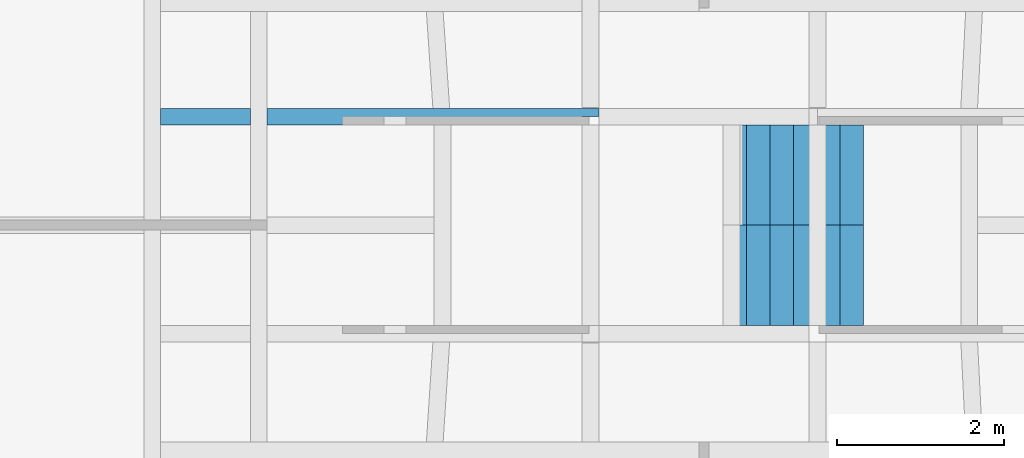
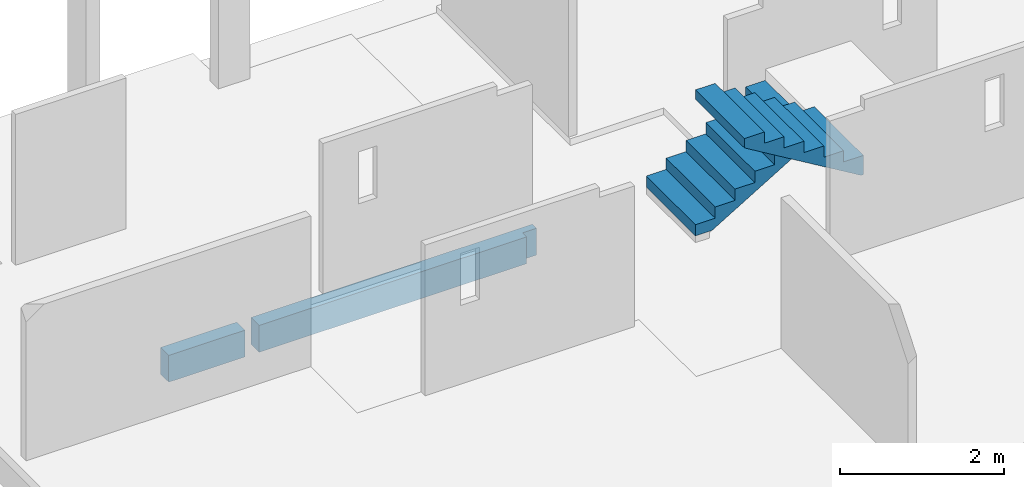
# One storey, part 7 of 7: 2 stair flights, 1 beam, 1 element without a shape of its own.
"""IFC4 building model written with IfcOpenShell, lengths in metres."""

import ifcopenshell
import ifcopenshell.guid

model = None  # the IFC model being written
_history = None  # IfcOwnerHistory: only IFC2X3 demands one
_inside = {}  # id of a spatial element -> (the spatial element, [elements in it])
_under = {}  # id of a project, library or spatial element -> (it, [spatial elements below it])
_declared = {}  # id of a project -> (the project, [libraries it declares])
_typed = {}  # id of a type object -> (the type object, [elements of that type])
_made_of = {}  # id of a material, layer set ... -> (it, [elements and type objects made of it])


def new_model(schema):
    """Start an empty IFC model of exactly this schema.

    Asked for "IFC4X3", IfcOpenShell would pick the latest addendum, in which some entities
    have other attributes; the version numbers below select the first issue.
    IFC2X3 requires an IfcOwnerHistory on every rooted entity: one is made here for all.
    """
    global model, _history
    if schema == "IFC4X3":
        model = ifcopenshell.file(schema_version=(4, 3, 0, 0))
    else:
        model = ifcopenshell.file(schema=schema)
    _inside.clear()
    _under.clear()
    _declared.clear()
    _typed.clear()
    _made_of.clear()
    _history = None
    if model.schema == "IFC2X3":
        org = make("IfcOrganization", Name="unknown")
        user = make(
            "IfcPersonAndOrganization",
            ThePerson=make("IfcPerson", FamilyName="unknown"),
            TheOrganization=org,
        )
        app = make(
            "IfcApplication",
            ApplicationDeveloper=org,
            Version="unknown",
            ApplicationFullName="unknown",
            ApplicationIdentifier="unknown",
        )
        _history = make(
            "IfcOwnerHistory",
            OwningUser=user,
            OwningApplication=app,
            ChangeAction="ADDED",
            CreationDate=0,
        )
    return model


def make(cls, **values):
    """One entity of the class cls with the attributes given. An attribute that is None is left unset."""
    return model.create_entity(
        cls, **{name: value for name, value in values.items() if value is not None}
    )


def entity(cls, *values):
    """Any entity or typed value of the class cls, its attributes in the order of the schema. None: left unset."""
    e = model.create_entity(cls)
    for i, value in enumerate(values):
        if value is not None:
            e[i] = value
    return e


def rooted(cls, **values):
    """An entity with a GlobalId (a new one), such as an element, a storey or a relation."""
    return make(cls, GlobalId=ifcopenshell.guid.new(), OwnerHistory=_history, **values)


def si_unit(unit_type, name, prefix=None):
    """IfcSIUnit, for example si_unit("LENGTHUNIT", "METRE", prefix="MILLI")."""
    return make("IfcSIUnit", UnitType=unit_type, Prefix=prefix, Name=name)


def converted_unit(unit_type, name, factor, base, dimensions=None, offset=None):
    """IfcConversionBasedUnit, such as the inch: factor (a typed value) times the base unit."""
    return make(
        "IfcConversionBasedUnit"
        if offset is None
        else "IfcConversionBasedUnitWithOffset",
        ConversionOffset=offset,
        Dimensions=None
        if dimensions is None
        else entity("IfcDimensionalExponents", *dimensions),
        UnitType=unit_type,
        Name=name,
        ConversionFactor=make(
            "IfcMeasureWithUnit", ValueComponent=factor, UnitComponent=base
        ),
    )


def derived_unit(unit_type, elements):
    """IfcDerivedUnit: a product of units, each with its exponent."""
    return make(
        "IfcDerivedUnit",
        Elements=[
            make("IfcDerivedUnitElement", Unit=unit, Exponent=power)
            for unit, power in elements
        ],
        UnitType=unit_type,
    )


def assignment(units):
    """IfcUnitAssignment: the units of a project."""
    return None if units is None else make("IfcUnitAssignment", Units=units)


def point(xyz):
    """IfcCartesianPoint."""
    return None if xyz is None else make("IfcCartesianPoint", Coordinates=xyz)


def direction(xyz):
    """IfcDirection."""
    return None if xyz is None else make("IfcDirection", DirectionRatios=xyz)


def frame(location, z_axis=None, x_axis=None):
    """IfcAxis2Placement3D, a coordinate frame: its origin and axes. An axis left out is left unset."""
    return make(
        "IfcAxis2Placement3D",
        Location=point(location),
        Axis=direction(z_axis),
        RefDirection=direction(x_axis),
    )


def origin():
    """The frame at (0, 0, 0) with its axes left unset."""
    return frame((0.0, 0.0, 0.0))


def place(relative_to, where):
    """IfcLocalPlacement: puts the frame where relative to a parent placement (None: the world)."""
    return make(
        "IfcLocalPlacement", PlacementRelTo=relative_to, RelativePlacement=where
    )


def context(
    kind, dimensions, precision=None, world=None, true_north=None, identifier=None
):
    """IfcGeometricRepresentationContext, for example the 3D "Model" context."""
    return make(
        "IfcGeometricRepresentationContext",
        ContextIdentifier=identifier,
        ContextType=kind,
        CoordinateSpaceDimension=dimensions,
        Precision=precision,
        WorldCoordinateSystem=world,
        TrueNorth=true_north,
    )


def subcontext(parent, identifier, kind, view, scale=None):
    """IfcGeometricRepresentationSubContext, for example "Body" below "Model"."""
    return make(
        "IfcGeometricRepresentationSubContext",
        ContextIdentifier=identifier,
        ContextType=kind,
        ParentContext=parent,
        TargetScale=scale,
        TargetView=view,
    )


def project(units=None, contexts=None):
    """IfcProject with its units and contexts."""
    return rooted(
        "IfcProject",
        Name="project",
        RepresentationContexts=contexts,
        UnitsInContext=assignment(units),
    )


def spatial(cls, under=None, at=None, **own):
    """A site, building, storey or space (cls), placed at a placement, below another one or the project."""
    s = rooted(cls, ObjectPlacement=at, **own)
    if under is not None:
        _under.setdefault(under.id(), (under, []))[1].append(s)
    return s


def point_list(points):
    """IfcCartesianPointList2D or 3D."""
    cls = (
        "IfcCartesianPointList2D" if len(points[0]) == 2 else "IfcCartesianPointList3D"
    )
    return make(cls, CoordList=points)


def polygons(points, faces, closed=None, point_numbers=None):
    """IfcPolygonalFaceSet: a face is its outer loop, then its inner loops; points numbered from 1."""
    made = []
    for loops in faces:
        if len(loops) == 1:
            made.append(make("IfcIndexedPolygonalFace", CoordIndex=loops[0]))
        else:
            made.append(
                make(
                    "IfcIndexedPolygonalFaceWithVoids",
                    CoordIndex=loops[0],
                    InnerCoordIndices=loops[1:],
                )
            )
    return make(
        "IfcPolygonalFaceSet",
        Coordinates=point_list(points),
        Closed=closed,
        Faces=made,
        PnIndex=point_numbers,
    )


def shape(context_of_items, identifier, shape_type, items):
    """IfcShapeRepresentation: the items that make up one representation, for example the "Body"."""
    return make(
        "IfcShapeRepresentation",
        ContextOfItems=context_of_items,
        RepresentationIdentifier=identifier,
        RepresentationType=shape_type,
        Items=items,
    )


def source(mapping_origin, context_of_items, identifier, shape_type, items):
    """IfcRepresentationMap: a shape defined once, which mapped items show again and again."""
    return make(
        "IfcRepresentationMap",
        MappingOrigin=mapping_origin,
        MappedRepresentation=shape(context_of_items, identifier, shape_type, items),
    )


def transform(
    local_origin,
    x_axis=None,
    y_axis=None,
    z_axis=None,
    scale=None,
    scale2=None,
    scale3=None,
    uniform=True,
):
    """IfcCartesianTransformationOperator3D, or its non-uniform kind. x_axis, y_axis, z_axis: its Axis1, 2, 3."""
    if uniform:
        return make(
            "IfcCartesianTransformationOperator3D",
            Axis1=direction(x_axis),
            Axis2=direction(y_axis),
            LocalOrigin=point(local_origin),
            Scale=scale,
            Axis3=direction(z_axis),
        )
    return make(
        "IfcCartesianTransformationOperator3DnonUniform",
        Axis1=direction(x_axis),
        Axis2=direction(y_axis),
        LocalOrigin=point(local_origin),
        Scale=scale,
        Axis3=direction(z_axis),
        Scale2=scale2,
        Scale3=scale3,
    )


def mapped(mapping_source, mapping_target):
    """IfcMappedItem: shows the shape of a source again, moved by a transform."""
    return make(
        "IfcMappedItem", MappingSource=mapping_source, MappingTarget=mapping_target
    )


def material(Name=None, Category=None):
    """IfcMaterial."""
    return make("IfcMaterial", Name=Name, Category=Category)


def made_of(thing, what):
    """Note that an element or type object is made of a material, layer set ...; save() writes the relation."""
    if what is not None:
        _made_of.setdefault(what.id(), (what, []))[1].append(thing)
    return thing


def type_object(cls, material=None, **own):
    """A type object (cls), such as IfcWallType, which elements share."""
    return made_of(rooted(cls, **own), material)


def type_shapes(of_type, sources):
    """Give a type object the sources (RepresentationMaps) that its elements show as mapped items."""
    of_type.RepresentationMaps = sources


def element(
    cls,
    number,
    at=None,
    inside=None,
    cuts=None,
    type_object=None,
    material=None,
    context=None,
    identifier="Body",
    shape_type=None,
    held_by="IfcProductDefinitionShape",
    body=None,
    shapes=None,
    **own,
):
    """One element of the class cls, such as IfcWall. Its Tag is "e" and its number.

    at: its placement. inside: the storey or other place that contains it. cuts: it is an
    opening in that element (IfcRelVoidsElement). A single representation is given by context,
    identifier, shape_type and body (its items); several are given by shapes. held_by: the class
    of the entity that holds the representations. save() writes the other relations.
    """
    e = rooted(cls, Tag="e%d" % number, ObjectPlacement=at, **own)
    if body is not None:
        shapes = [shape(context, identifier, shape_type, body)]
    if shapes is not None:
        e.Representation = make(held_by, Representations=shapes)
    if inside is not None:
        _inside.setdefault(inside.id(), (inside, []))[1].append(e)
    if cuts is not None:
        rooted(
            "IfcRelVoidsElement", RelatingBuildingElement=cuts, RelatedOpeningElement=e
        )
    if type_object is not None:
        _typed.setdefault(type_object.id(), (type_object, []))[1].append(e)
    return made_of(e, material)


def aggregate(whole, parts):
    """IfcRelAggregates: a whole, such as a stair, and the parts it consists of."""
    return rooted("IfcRelAggregates", RelatingObject=whole, RelatedObjects=parts)


def save(model, path):
    """Write the relations noted so far, then the file.

    IfcRelAggregates (storeys below a building ...), IfcRelContainedInSpatialStructure (elements
    in a storey), IfcRelDefinesByType, IfcRelAssociatesMaterial and IfcRelDeclares: one each for
    every whole, place, type object, material and project.
    """
    for whole, parts in _under.values():
        aggregate(whole, parts)
    for where, things in _inside.values():
        rooted(
            "IfcRelContainedInSpatialStructure",
            RelatedElements=things,
            RelatingStructure=where,
        )
    for kind, things in _typed.values():
        rooted("IfcRelDefinesByType", RelatedObjects=things, RelatingType=kind)
    for what, things in _made_of.values():
        rooted("IfcRelAssociatesMaterial", RelatedObjects=things, RelatingMaterial=what)
    for by, libraries in _declared.values():
        rooted("IfcRelDeclares", RelatingContext=by, RelatedDefinitions=libraries)
    model.write(path)


model = new_model("IFC4")

# Units and contexts
model_context = context("Model", 3, precision=1e-05, world=origin(), true_north=direction((6.123031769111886e-17, 1.0)))
body_context = subcontext(model_context, "Body", "Model", "MODEL_VIEW")
ifc_project = project(units=[si_unit("LENGTHUNIT", "METRE"), si_unit("AREAUNIT", "SQUARE_METRE"), si_unit("VOLUMEUNIT", "CUBIC_METRE"), converted_unit("PLANEANGLEUNIT", "DEGREE", entity("IfcRatioMeasure", 0.017453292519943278), si_unit("PLANEANGLEUNIT", "RADIAN"), dimensions=[0, 0, 0, 0, 0, 0, 0]), si_unit("MASSUNIT", "GRAM", prefix="KILO"), derived_unit("MASSDENSITYUNIT", [(si_unit("MASSUNIT", "GRAM", prefix="KILO"), 1), (si_unit("LENGTHUNIT", "METRE"), -3)]), derived_unit("IONCONCENTRATIONUNIT", [(si_unit("MASSUNIT", "GRAM", prefix="KILO"), 1), (si_unit("LENGTHUNIT", "METRE"), -3)]), derived_unit("MOMENTOFINERTIAUNIT", [(si_unit("LENGTHUNIT", "METRE"), 4)]), si_unit("TIMEUNIT", "SECOND"), si_unit("FREQUENCYUNIT", "HERTZ"), si_unit("THERMODYNAMICTEMPERATUREUNIT", "DEGREE_CELSIUS"), derived_unit("THERMALTRANSMITTANCEUNIT", [(si_unit("MASSUNIT", "GRAM", prefix="KILO"), 1), (si_unit("THERMODYNAMICTEMPERATUREUNIT", "KELVIN"), -1), (si_unit("TIMEUNIT", "SECOND"), -3)]), derived_unit("THERMALCONDUCTANCEUNIT", [(si_unit("MASSUNIT", "GRAM", prefix="KILO"), 1), (si_unit("THERMODYNAMICTEMPERATUREUNIT", "KELVIN"), -1), (si_unit("TIMEUNIT", "SECOND"), -3), (si_unit("LENGTHUNIT", "METRE"), 1)]), derived_unit("VOLUMETRICFLOWRATEUNIT", [(si_unit("LENGTHUNIT", "METRE"), 3), (si_unit("TIMEUNIT", "SECOND"), -1)]), derived_unit("MASSFLOWRATEUNIT", [(si_unit("MASSUNIT", "GRAM", prefix="KILO"), 1), (si_unit("TIMEUNIT", "SECOND"), -1)]), derived_unit("ROTATIONALFREQUENCYUNIT", [(si_unit("TIMEUNIT", "SECOND"), -1)]), si_unit("ELECTRICCURRENTUNIT", "AMPERE"), si_unit("ELECTRICVOLTAGEUNIT", "VOLT"), si_unit("POWERUNIT", "WATT"), si_unit("FORCEUNIT", "NEWTON", prefix="KILO"), si_unit("ILLUMINANCEUNIT", "LUX"), si_unit("LUMINOUSFLUXUNIT", "LUMEN"), si_unit("LUMINOUSINTENSITYUNIT", "CANDELA"), derived_unit("USERDEFINED", [(si_unit("MASSUNIT", "GRAM", prefix="KILO"), -1), (si_unit("LENGTHUNIT", "METRE"), -2), (si_unit("TIMEUNIT", "SECOND"), 3), (si_unit("LUMINOUSFLUXUNIT", "LUMEN"), 1)]), derived_unit("USERDEFINED", [(si_unit("MASSUNIT", "GRAM", prefix="KILO"), 1), (si_unit("TIMEUNIT", "SECOND"), -3), (si_unit("LENGTHUNIT", "METRE"), 3), (si_unit("ELECTRICCURRENTUNIT", "AMPERE"), -2)]), derived_unit("SOUNDPOWERUNIT", [(si_unit("MASSUNIT", "GRAM", prefix="KILO"), 1), (si_unit("TIMEUNIT", "SECOND"), -3), (si_unit("LENGTHUNIT", "METRE"), 2)]), derived_unit("SOUNDPRESSUREUNIT", [(si_unit("MASSUNIT", "GRAM", prefix="KILO"), 1), (si_unit("LENGTHUNIT", "METRE"), -1), (si_unit("TIMEUNIT", "SECOND"), -2)]), derived_unit("LINEARVELOCITYUNIT", [(si_unit("LENGTHUNIT", "METRE"), 1), (si_unit("TIMEUNIT", "SECOND"), -1)]), si_unit("PRESSUREUNIT", "PASCAL"), derived_unit("USERDEFINED", [(si_unit("MASSUNIT", "GRAM", prefix="KILO"), 1), (si_unit("LENGTHUNIT", "METRE"), -2), (si_unit("TIMEUNIT", "SECOND"), -2)]), derived_unit("LINEARFORCEUNIT", [(si_unit("MASSUNIT", "GRAM", prefix="KILO"), 1), (si_unit("TIMEUNIT", "SECOND"), -2)]), derived_unit("PLANARFORCEUNIT", [(si_unit("MASSUNIT", "GRAM", prefix="KILO"), 1), (si_unit("LENGTHUNIT", "METRE"), -1), (si_unit("TIMEUNIT", "SECOND"), -2)]), derived_unit("SPECIFICHEATCAPACITYUNIT", [(si_unit("THERMODYNAMICTEMPERATUREUNIT", "KELVIN"), -1), (si_unit("LENGTHUNIT", "METRE"), 2), (si_unit("TIMEUNIT", "SECOND"), -2)]), derived_unit("HEATINGVALUEUNIT", [(si_unit("LENGTHUNIT", "METRE"), 2), (si_unit("TIMEUNIT", "SECOND"), -2)]), derived_unit("VAPORPERMEABILITYUNIT", [(si_unit("LENGTHUNIT", "METRE"), -1), (si_unit("TIMEUNIT", "SECOND"), 1)]), derived_unit("DYNAMICVISCOSITYUNIT", [(si_unit("MASSUNIT", "GRAM", prefix="KILO"), 1), (si_unit("TIMEUNIT", "SECOND"), -1), (si_unit("LENGTHUNIT", "METRE"), -1)]), derived_unit("THERMALEXPANSIONCOEFFICIENTUNIT", [(si_unit("THERMODYNAMICTEMPERATUREUNIT", "KELVIN"), -1)]), derived_unit("MODULUSOFELASTICITYUNIT", [(si_unit("MASSUNIT", "GRAM", prefix="KILO"), 1), (si_unit("LENGTHUNIT", "METRE"), -1), (si_unit("TIMEUNIT", "SECOND"), -2)]), derived_unit("ISOTHERMALMOISTURECAPACITYUNIT", [(si_unit("LENGTHUNIT", "METRE"), 3), (si_unit("MASSUNIT", "GRAM", prefix="KILO"), -1)]), derived_unit("MOISTUREDIFFUSIVITYUNIT", [(si_unit("TIMEUNIT", "SECOND"), -1), (si_unit("LENGTHUNIT", "METRE"), 2)])], contexts=[model_context])

# Site, building, storey
site_placement = place(None, origin())
site = spatial("IfcSite", under=ifc_project, at=site_placement, Name="Default", CompositionType="ELEMENT")
building_placement = place(site_placement, origin())
building = spatial("IfcBuilding", under=site, at=building_placement, Name="Las nubes", CompositionType="ELEMENT")
storey_placement = place(building_placement, origin())
storey = spatial("IfcBuildingStorey", under=building, at=storey_placement, Name="CIMENTACIÓN", CompositionType="ELEMENT", Elevation=-3.522347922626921e-13)

# Beam
ifc_material = material(Name="Concrete, Cast In Situ", Category="Materials")
beam_type = type_object("IfcBeamType", Name="M_Concrete-Rectangular Beam:(0.20x0.55)", PredefinedType="BEAM", material=ifc_material)
shared_shape = source(origin(), body_context, "Body", "Tessellation", [
    polygons([(1.2774989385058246, 0.20000000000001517, 0.0), (1.2774989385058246, 0.20000000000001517, 0.39999999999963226), (3.263561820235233, 0.20000000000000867, 0.39999999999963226), (3.4640157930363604, 0.20000000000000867, 0.39999999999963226), (5.252498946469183, 0.20000000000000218, 0.39999999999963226), (5.252498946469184, 0.20000000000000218, 0.30000000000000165), (5.252498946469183, 0.20000000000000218, 0.0), (3.4640157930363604, 0.20000000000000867, 0.0), (3.263561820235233, 0.20000000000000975, 0.0), (1.2774989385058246, 1.191153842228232e-14, 0.0), (5.252498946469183, 0.09999999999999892, 0.0), (5.052498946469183, 0.09999999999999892, 0.0), (5.052498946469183, 0.0, 0.0), (3.4774989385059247, 5.4143356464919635e-15, 6.767919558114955e-17), (3.2774989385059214, 5.4143356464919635e-15, 0.0), (1.2774989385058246, 1.191153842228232e-14, 0.39999999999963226), (5.052498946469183, 0.0, 0.39999999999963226), (5.052498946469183, 0.09999999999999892, 0.39999999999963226), (5.252498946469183, 0.09999999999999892, 0.39999999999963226)], [[[1, 2, 3, 4, 5, 6, 7, 8, 9]], [[10, 1, 9, 8, 7, 11, 12, 13, 14, 15]], [[16, 10, 15, 14, 13, 17]], [[1, 10, 16, 2]], [[5, 4, 3, 2, 16, 17, 18, 19]], [[7, 6, 5, 19, 11]], [[12, 18, 17, 13]], [[18, 12, 11, 19]]], closed=True),
    polygons([(1.0828671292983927e-15, 0.20000000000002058, 0.0), (0.0, 1.624300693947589e-14, 0.0), (0.0, 1.7325874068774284e-14, 0.39999999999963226), (5.414335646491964e-16, 0.2000000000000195, 0.39999999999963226), (1.0774989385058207, 1.2994405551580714e-14, 0.0), (1.0774989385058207, 0.20000000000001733, 0.0), (1.0774989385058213, 0.20000000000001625, 0.39999999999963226), (1.0774989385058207, 1.2994405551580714e-14, 0.39999999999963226)], [[[1, 2, 3, 4]], [[5, 6, 7, 8]], [[1, 4, 7, 6]], [[2, 1, 6, 5]], [[3, 2, 5, 8]], [[4, 3, 8, 7]]], closed=True),
])
type_shapes(beam_type, [shared_shape])
beam_placement = place(storey_placement, frame((2.8100010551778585, -5.225000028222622, -0.5500000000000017)))
element("IfcBeam", 1, at=beam_placement, inside=storey, type_object=beam_type, material=ifc_material, Name="M_Concrete-Rectangular Beam:(0.20x0.55)", ObjectType="M_Concrete-Rectangular Beam:(0.20x0.55)", PredefinedType="BEAM", context=body_context, shape_type="MappedRepresentation", body=[
    mapped(shared_shape, transform((0.0, 0.0, 0.0), scale=1.0)),
])

# Stair, stair flights
stair_type = type_object("IfcStairType", Name="Cast-In-Place Stair:B1080_Escalera Monolitica en Concreto", PredefinedType="HALF_TURN_STAIR")
stair_placement = place(storey_placement, origin())
stair = element("IfcStair", 2, at=stair_placement, inside=storey, type_object=stair_type, Name="Cast-In-Place Stair:Stair", ObjectType="Cast-In-Place Stair:B1080_Escalera Monolitica en Concreto", PredefinedType="HALF_TURN_STAIR")
stair_flight_type_1 = type_object("IfcStairFlightType", Name="Monolithic Run:120mm Depth", PredefinedType="NOTDEFINED")
stair_flight_1_placement = place(stair_placement, frame((9.552500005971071, -6.4250000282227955, 0.0)))
stair_flight_1 = element("IfcStairFlight", 3, at=stair_flight_1_placement, type_object=stair_flight_type_1, material=ifc_material, Name="Cast-In-Place Stair:Stair:523479 Run 1", ObjectType="Monolithic Run:120mm Depth", PredefinedType="NOTDEFINED", context=body_context, shape_type="Tessellation", body=[
    polygons([(0.27999999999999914, 1.2000000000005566, 0.1678571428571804), (-1.0828671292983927e-15, 1.2000000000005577, 0.1678571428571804), (-1.0828671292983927e-15, 5.4143356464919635e-15, 0.1678571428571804), (0.279999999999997, 4.331468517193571e-15, 0.1678571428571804), (0.2800000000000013, 1.2000000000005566, 0.027945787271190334), (0.23338404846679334, 1.2000000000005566, 4.619474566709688e-16), (-1.0828671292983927e-15, 1.2000000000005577, -5.270464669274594e-19), (-1.0828671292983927e-15, 5.4143356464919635e-15, -5.270464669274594e-19), (0.23338404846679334, 4.331468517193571e-15, 4.619474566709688e-16), (0.279999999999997, 4.331468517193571e-15, 0.027945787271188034), (0.5599999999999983, 1.2000000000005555, 0.3357142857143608), (0.279999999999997, 1.2000000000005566, 0.3357142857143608), (0.279999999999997, 4.331468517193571e-15, 0.3357142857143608), (0.5599999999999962, 3.2486013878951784e-15, 0.3357142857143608), (0.5600000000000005, 1.2000000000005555, 0.1958029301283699), (0.559999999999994, 3.2486013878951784e-15, 0.19580293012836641), (0.8399999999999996, 1.2000000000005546, 0.5035714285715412), (0.5599999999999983, 1.2000000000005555, 0.5035714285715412), (0.5599999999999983, 3.2486013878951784e-15, 0.5035714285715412), (0.8399999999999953, 2.1657342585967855e-15, 0.5035714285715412), (0.8400000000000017, 1.2000000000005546, 0.3636600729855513), (0.8399999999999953, 3.2486013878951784e-15, 0.3636600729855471), (1.1199999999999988, 1.2000000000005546, 0.6714285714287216), (0.8399999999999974, 1.2000000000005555, 0.6714285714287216), (0.8399999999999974, 3.2486013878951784e-15, 0.6714285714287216), (1.1199999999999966, 2.1657342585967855e-15, 0.6714285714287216), (1.120000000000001, 1.2000000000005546, 0.5315172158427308), (1.1199999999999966, 2.1657342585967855e-15, 0.5315172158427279), (1.399999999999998, 1.2000000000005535, 0.8392857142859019), (1.1199999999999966, 1.2000000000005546, 0.839285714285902), (1.1199999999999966, 2.1657342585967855e-15, 0.839285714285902), (1.3999999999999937, 1.0828671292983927e-15, 0.8392857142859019), (1.4000000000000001, 1.2000000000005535, 0.6993743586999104), (1.3999999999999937, 1.0828671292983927e-15, 0.6993743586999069), (1.6799999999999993, 1.2000000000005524, 1.0071428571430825), (1.3999999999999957, 1.2000000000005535, 1.0071428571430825), (1.3999999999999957, 1.0828671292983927e-15, 1.0071428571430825), (1.6799999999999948, 0.0, 1.0071428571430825), (1.6799999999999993, 1.2000000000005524, 0.8672315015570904), (1.679999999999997, 0.0, 0.8672315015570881)], [[[1, 2, 3, 4]], [[2, 1, 5, 6, 7]], [[3, 2, 7, 8]], [[4, 3, 8, 9, 10]], [[11, 12, 13, 14]], [[12, 11, 15, 5, 1]], [[1, 4, 13, 12]], [[14, 13, 4, 10, 16]], [[17, 18, 19, 20]], [[18, 17, 21, 15, 11]], [[11, 14, 19, 18]], [[20, 19, 14, 16, 22]], [[23, 24, 25, 26]], [[24, 23, 27, 21, 17]], [[17, 20, 25, 24]], [[26, 25, 20, 22, 28]], [[29, 30, 31, 32]], [[30, 29, 33, 27, 23]], [[23, 26, 31, 30]], [[32, 31, 26, 28, 34]], [[35, 36, 37, 38]], [[36, 35, 39, 33, 29]], [[29, 32, 37, 36]], [[38, 37, 32, 34, 40]], [[35, 38, 40, 39]], [[8, 7, 6, 9]], [[9, 6, 5, 15, 21, 27, 33, 39, 40, 34, 28, 22, 16, 10]]], closed=True),
])
stair_flight_type_2 = type_object("IfcStairFlightType", Name="Monolithic Run:120mm Depth", PredefinedType="STRAIGHT")
stair_flight_2_placement = place(stair_placement, frame((9.552500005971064, -7.625000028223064, 0.0)))
stair_flight_2 = element("IfcStairFlight", 4, at=stair_flight_2_placement, type_object=stair_flight_type_2, material=ifc_material, Name="Cast-In-Place Stair:Stair:523479 Run 2", ObjectType="Monolithic Run:120mm Depth", PredefinedType="STRAIGHT", context=body_context, shape_type="Tessellation", body=[
    polygons([(1.6799999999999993, 0.0, 1.3428571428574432), (1.6799999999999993, 1.1990000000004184, 1.3428571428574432), (1.6467861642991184, 1.1990000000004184, 1.3428571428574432), (1.4000000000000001, 1.1990000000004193, 1.3428571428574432), (1.399999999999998, 1.0828671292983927e-15, 1.3428571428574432), (1.6467861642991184, 0.0, 1.3428571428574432), (1.399999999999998, 1.0828671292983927e-15, 1.202945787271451), (1.6467861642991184, 0.0, 1.0550000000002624), (1.6799999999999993, 0.0, 1.0550000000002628), (1.6799999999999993, 0.0, 1.1750000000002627), (1.6799999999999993, 1.1990000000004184, 1.0550000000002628), (1.6467861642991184, 1.1990000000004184, 1.0550000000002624), (1.4000000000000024, 1.1990000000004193, 1.202945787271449), (1.1199999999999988, 2.1657342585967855e-15, 1.5107142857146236), (1.399999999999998, 1.0828671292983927e-15, 1.5107142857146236), (1.399999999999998, 1.1990000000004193, 1.5107142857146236), (1.1199999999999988, 1.1990000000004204, 1.5107142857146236), (1.1199999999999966, 1.0828671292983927e-15, 1.3708029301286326), (1.120000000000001, 1.1990000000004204, 1.3708029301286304), (0.8399999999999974, 2.1657342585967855e-15, 1.678571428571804), (1.1199999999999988, 1.0828671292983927e-15, 1.678571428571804), (1.1199999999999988, 1.1990000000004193, 1.678571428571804), (0.8399999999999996, 1.1990000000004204, 1.678571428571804), (0.8399999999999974, 1.0828671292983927e-15, 1.5386600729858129), (0.8400000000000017, 1.1990000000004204, 1.5386600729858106), (0.5599999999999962, 3.2486013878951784e-15, 1.8464285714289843), (0.8399999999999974, 1.0828671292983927e-15, 1.8464285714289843), (0.8399999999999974, 1.1990000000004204, 1.8464285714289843), (0.5600000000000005, 1.1990000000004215, 1.8464285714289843), (0.5599999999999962, 3.2486013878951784e-15, 1.7065172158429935), (0.5600000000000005, 1.1990000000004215, 1.7065172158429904), (0.27999999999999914, 4.331468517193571e-15, 2.0142857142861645), (0.5599999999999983, 3.2486013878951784e-15, 2.0142857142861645), (0.5599999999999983, 1.1990000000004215, 2.0142857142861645), (0.2800000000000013, 1.1990000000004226, 2.0142857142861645), (0.279999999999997, 4.331468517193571e-15, 1.874374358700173), (0.2800000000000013, 1.1990000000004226, 1.8743743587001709), (1.0828671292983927e-15, 5.4143356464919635e-15, 2.182142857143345), (0.2800000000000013, 4.331468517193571e-15, 2.182142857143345), (0.2800000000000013, 1.1990000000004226, 2.182142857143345), (3.2486013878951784e-15, 1.1990000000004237, 2.182142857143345), (1.0828671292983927e-15, 5.4143356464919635e-15, 2.0422315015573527), (3.2486013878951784e-15, 1.1990000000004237, 2.0422315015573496)], [[[1, 2, 3, 4, 5, 6]], [[5, 7, 8, 9, 10, 1, 6]], [[2, 1, 10, 9, 11]], [[2, 11, 12, 13, 4, 3]], [[14, 15, 16, 17]], [[15, 14, 18, 7, 5]], [[16, 15, 5, 4]], [[17, 16, 4, 13, 19]], [[20, 21, 22, 23]], [[21, 20, 24, 18, 14]], [[22, 21, 14, 17]], [[23, 22, 17, 19, 25]], [[26, 27, 28, 29]], [[27, 26, 30, 24, 20]], [[28, 27, 20, 23]], [[29, 28, 23, 25, 31]], [[32, 33, 34, 35]], [[33, 32, 36, 30, 26]], [[34, 33, 26, 29]], [[35, 34, 29, 31, 37]], [[38, 39, 40, 41]], [[39, 38, 42, 36, 32]], [[40, 39, 32, 35]], [[41, 40, 35, 37, 43]], [[38, 41, 43, 42]], [[12, 8, 7, 18, 24, 30, 36, 42, 43, 37, 31, 25, 19, 13]], [[8, 12, 11, 9]]], closed=True),
])
aggregate(stair, [stair_flight_1, stair_flight_2])

save(model, "model.ifc")
